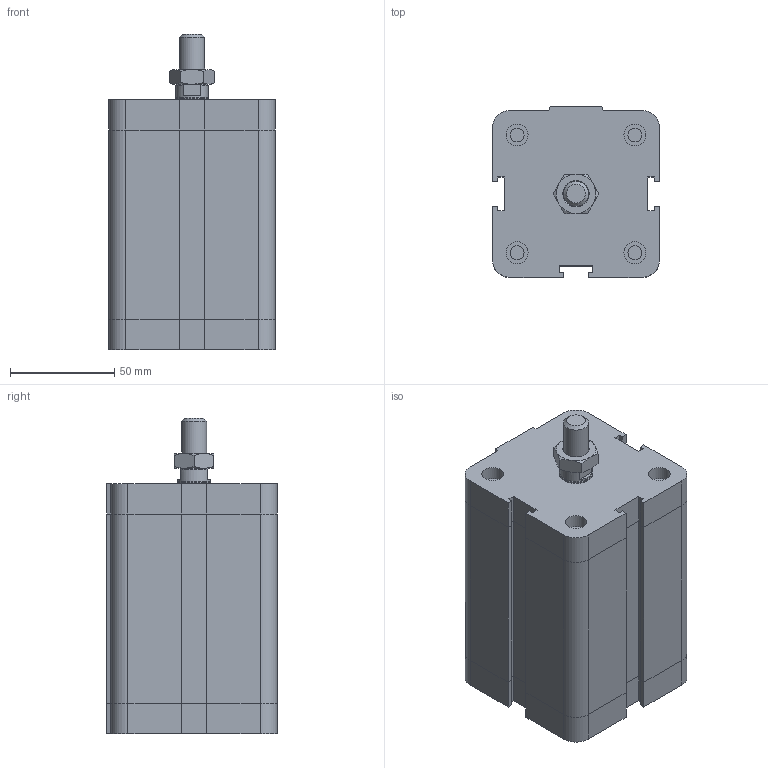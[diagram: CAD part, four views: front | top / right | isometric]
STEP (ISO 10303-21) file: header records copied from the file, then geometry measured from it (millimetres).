
FILE_DESCRIPTION((''),'2;1');
FILE_NAME('I:\Area Tecnica\Disegni\VARIE-3D\Componenti\EUROPE\15##_###_####_02_#\1561_63_0070_02_1.stp','2008-12-19T16:06:22',('rivolro1'),(''),'Autodesk Inventor 2009','Autodesk Inventor 2009','');
FILE_SCHEMA(('AUTOMOTIVE_DESIGN { 1 0 10303 214 1 1 1 1 }'));
Length unit declared in the file: millimetre
Products named in the file (4): 1561_63_0070_02_1; 1561_63_0070_01_1_C; 1561_63_0070_02_1_S; DBFM12
Assembly tree (3 placements, depth 2):
  1561_63_0070_02_1
    1561_63_0070_01_1_C
    1561_63_0070_02_1_S
    DBFM12
Bounding box: 80 x 82 x 151.5 mm (x, y, z)
Volume: 735254 mm3; surface area: 72443.6 mm2
Topology: 3 solids, 3 shells, 187 faces, 401 edges, 240 vertices
Faces by surface type: plane 121, bspline 24, cylinder 24, cone 18
Full cylindrical faces by diameter (mm): 6.647 x4, 10.5 x4, 10.8 x1, 12 x1, 15.6 x1, 16 x1
Entity records: 5080 total; most frequent: CARTESIAN_POINT 1096, DIRECTION 758, ORIENTED_EDGE 724, EDGE_CURVE 362, AXIS2_PLACEMENT_3D 254, VECTOR 250, LINE 250, EDGE_LOOP 238
